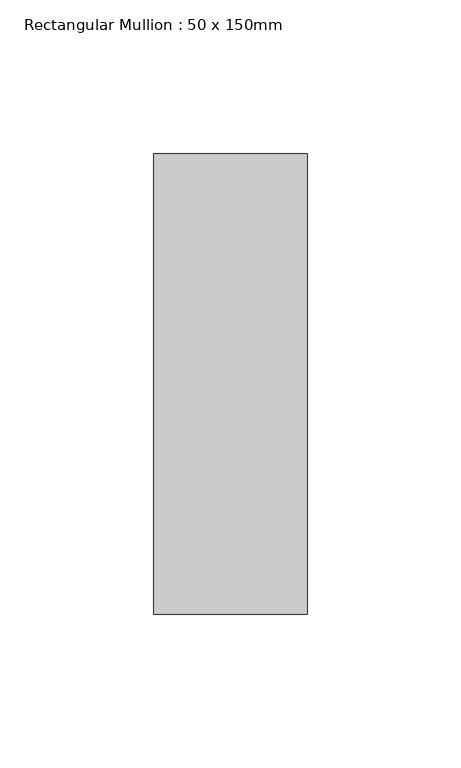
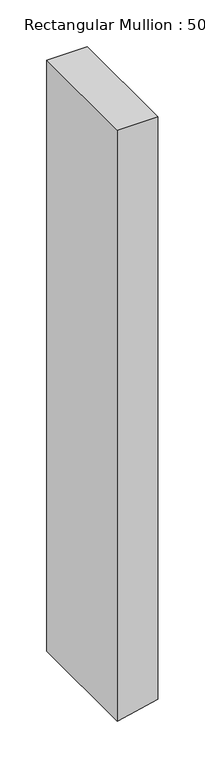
"""IFC4 building model written with IfcOpenShell, lengths in millimetres: member geometry, Rectangular Mullion : 50 x 150mm."""

from ifc_helpers import new_model, si_unit, frame, origin, place, context, project, spatial, polyline, outline, extrude, source, transform, mapped, element, save


def rectangular_mullion_50_x_150mm_f096a579(model_context):
    return source(origin(), model_context, "Body", "SweptSolid", [
        extrude(outline(polyline([(0.0, 25.0), (0.0, -25.0), (-769.3177245, -25.0), (-766.2075497, -10.4556584), (-758.6256805, 25.0), (0.0, 25.0)])), frame((0.0, -75.0, 0.0), z_axis=(0.0, 1.0, 0.0), x_axis=(0.0, 0.0, 1.0)), (0.0, 0.0, 1.0), 150.0),
    ])


if __name__ == "__main__":
    model = new_model("IFC4")
    model_context = context("Model", 3, world=origin())
    ifc_project = project(units=[si_unit("LENGTHUNIT", "METRE", prefix="MILLI")], contexts=[model_context])
    site = spatial("IfcSite", under=ifc_project)
    building = spatial("IfcBuilding", under=site)
    placement = place(None, origin())
    rectangular_mullion_50_x_150mm_shape = rectangular_mullion_50_x_150mm_f096a579(model_context)
    element("IfcMember", 1, ObjectType="Rectangular Mullion : 50 x 150mm", at=placement, inside=building, context=model_context, shape_type="MappedRepresentation", body=[
        mapped(rectangular_mullion_50_x_150mm_shape, transform((0.0, 0.0, 0.0), x_axis=(1.0, 0.0, 0.0), y_axis=(0.0, 1.0, 0.0), z_axis=(0.0, 0.0, 1.0))),
    ])
    save(model, "model.ifc")
